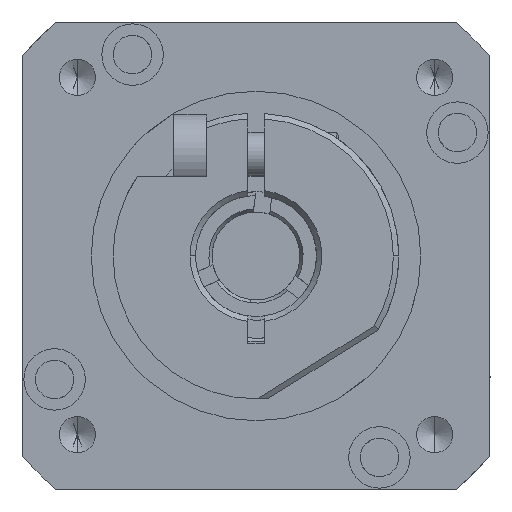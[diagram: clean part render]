
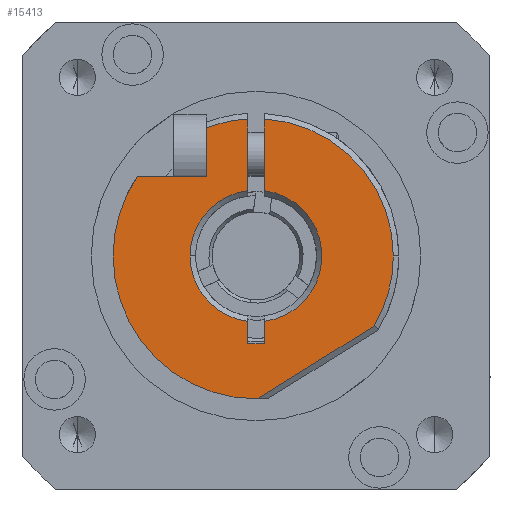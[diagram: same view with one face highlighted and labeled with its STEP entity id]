
A CAD part, left-side view. The second image highlights one B-rep face of the part: STEP entity #15413.
In plain terms, the highlighted planar face has unit normal (-1, 0, 0) as drawn and (0, -1, 0) by its records, which use the part's own axes.
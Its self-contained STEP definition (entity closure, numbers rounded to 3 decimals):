
#131 = AXIS2_PLACEMENT_3D ( 'NONE', #12934, #4484, #14357 ) ;
#149 = VERTEX_POINT ( 'NONE', #6681 ) ;
#198 = EDGE_CURVE ( 'NONE', #14274, #5869, #3789, .T. ) ;
#207 = CARTESIAN_POINT ( 'NONE',  ( 8., -4., -0.75 ) ) ;
#212 = CARTESIAN_POINT ( 'NONE',  ( -7.25, -4., -4.5 ) ) ;
#322 = VERTEX_POINT ( 'NONE', #12736 ) ;
#334 = DIRECTION ( 'NONE',  ( 0., 0., -1. ) ) ;
#407 = EDGE_CURVE ( 'NONE', #10996, #14274, #9093, .T. ) ;
#540 = DIRECTION ( 'NONE',  ( 1., 0., 0. ) ) ;
#568 = ORIENTED_EDGE ( 'NONE', *, *, #8639, .T. ) ;
#613 = CARTESIAN_POINT ( 'NONE',  ( 0., -4., -13. ) ) ;
#647 = CIRCLE ( 'NONE', #7833, 12.5 ) ;
#745 = CARTESIAN_POINT ( 'NONE',  ( 5.5, -4., 0.75 ) ) ;
#774 = CARTESIAN_POINT ( 'NONE',  ( 0., -4., -6. ) ) ;
#827 = VERTEX_POINT ( 'NONE', #212 ) ;
#1082 = EDGE_CURVE ( 'NONE', #17301, #149, #7925, .T. ) ;
#1087 = AXIS2_PLACEMENT_3D ( 'NONE', #3353, #13230, #4767 ) ;
#1234 = DIRECTION ( 'NONE',  ( 0., 1., 0. ) ) ;
#1344 = CARTESIAN_POINT ( 'NONE',  ( -12.477, -4., 0.75 ) ) ;
#1677 = CARTESIAN_POINT ( 'NONE',  ( 5.5, -4., -4.5 ) ) ;
#2115 = EDGE_CURVE ( 'NONE', #14062, #7401, #4371, .T. ) ;
#2396 = CARTESIAN_POINT ( 'NONE',  ( -5.953, -4., -0.75 ) ) ;
#2472 = EDGE_CURVE ( 'NONE', #16975, #7401, #18305, .T. ) ;
#2529 = DIRECTION ( 'NONE',  ( 0., -1., 0. ) ) ;
#2782 = DIRECTION ( 'NONE',  ( 0., -1., 0. ) ) ;
#3353 = CARTESIAN_POINT ( 'NONE',  ( 0., -4., 0. ) ) ;
#3704 = EDGE_CURVE ( 'NONE', #7699, #17301, #13033, .T. ) ;
#3717 = CARTESIAN_POINT ( 'NONE',  ( 6.303, -4., 10.859 ) ) ;
#3752 = AXIS2_PLACEMENT_3D ( 'NONE', #13911, #5458, #15342 ) ;
#3789 = CIRCLE ( 'NONE', #12319, 12.5 ) ;
#3888 = EDGE_CURVE ( 'NONE', #5869, #17381, #16584, .T. ) ;
#3986 = CARTESIAN_POINT ( 'NONE',  ( -7.25, -4., -10.791 ) ) ;
#4121 = VECTOR ( 'NONE', #5406, 1000. ) ;
#4371 = CIRCLE ( 'NONE', #1087, 6. ) ;
#4484 = DIRECTION ( 'NONE',  ( 0., 1., 0. ) ) ;
#4767 = DIRECTION ( 'NONE',  ( 0., 0., -1. ) ) ;
#5001 = LINE ( 'NONE', #18100, #4121 ) ;
#5179 = EDGE_CURVE ( 'NONE', #322, #14062, #7036, .T. ) ;
#5406 = DIRECTION ( 'NONE',  ( 0., 0., 1. ) ) ;
#5458 = DIRECTION ( 'NONE',  ( 0., -1., 0. ) ) ;
#5869 = VERTEX_POINT ( 'NONE', #6838 ) ;
#6157 = VECTOR ( 'NONE', #14875, 1000. ) ;
#6194 = CARTESIAN_POINT ( 'NONE',  ( 5.5, -4., -0.75 ) ) ;
#6265 = ORIENTED_EDGE ( 'NONE', *, *, #16728, .T. ) ;
#6268 = CARTESIAN_POINT ( 'NONE',  ( 12.999, -4., 0.144 ) ) ;
#6300 = VERTEX_POINT ( 'NONE', #3986 ) ;
#6456 = CARTESIAN_POINT ( 'NONE',  ( -11.662, -4., -4.5 ) ) ;
#6681 = CARTESIAN_POINT ( 'NONE',  ( 5.953, -4., 0.75 ) ) ;
#6799 = DIRECTION ( 'NONE',  ( -0.53, 0., 0.848 ) ) ;
#6838 = CARTESIAN_POINT ( 'NONE',  ( 0., -4., 12.5 ) ) ;
#7036 = CIRCLE ( 'NONE', #16575, 6. ) ;
#7317 = DIRECTION ( 'NONE',  ( 0., -1., 0. ) ) ;
#7331 = DIRECTION ( 'NONE',  ( -1., 0., 0. ) ) ;
#7401 = VERTEX_POINT ( 'NONE', #2396 ) ;
#7429 = LINE ( 'NONE', #9832, #14481 ) ;
#7642 = CARTESIAN_POINT ( 'NONE',  ( 8., -4., 0. ) ) ;
#7699 = VERTEX_POINT ( 'NONE', #207 ) ;
#7833 = AXIS2_PLACEMENT_3D ( 'NONE', #15776, #7317, #17226 ) ;
#7925 = LINE ( 'NONE', #745, #6157 ) ;
#8122 = CARTESIAN_POINT ( 'NONE',  ( 8., -4., 0.75 ) ) ;
#8232 = DIRECTION ( 'NONE',  ( 0., -1., 0. ) ) ;
#8388 = VERTEX_POINT ( 'NONE', #613 ) ;
#8435 = AXIS2_PLACEMENT_3D ( 'NONE', #17326, #8831, #334 ) ;
#8639 = EDGE_CURVE ( 'NONE', #16975, #11200, #647, .T. ) ;
#8831 = DIRECTION ( 'NONE',  ( 0., -1., 0. ) ) ;
#8984 = EDGE_CURVE ( 'NONE', #8388, #10996, #15480, .T. ) ;
#9093 = LINE ( 'NONE', #3717, #12392 ) ;
#9281 = ORIENTED_EDGE ( 'NONE', *, *, #1082, .F. ) ;
#9310 = EDGE_CURVE ( 'NONE', #16141, #149, #11469, .T. ) ;
#9451 = ORIENTED_EDGE ( 'NONE', *, *, #16432, .F. ) ;
#9452 = CARTESIAN_POINT ( 'NONE',  ( 5.5, -4., -0.75 ) ) ;
#9712 = CARTESIAN_POINT ( 'NONE',  ( 0., -4., 0. ) ) ;
#9832 = CARTESIAN_POINT ( 'NONE',  ( 5.5, -4., 0.75 ) ) ;
#9923 = ORIENTED_EDGE ( 'NONE', *, *, #2115, .T. ) ;
#10184 = ORIENTED_EDGE ( 'NONE', *, *, #5179, .T. ) ;
#10595 = CARTESIAN_POINT ( 'NONE',  ( -5.953, -4., 0.75 ) ) ;
#10859 = DIRECTION ( 'NONE',  ( 1., 0., 0. ) ) ;
#10990 = PLANE ( 'NONE',  #12977 ) ;
#10996 = VERTEX_POINT ( 'NONE', #6268 ) ;
#11117 = DIRECTION ( 'NONE',  ( 0., 0., -1. ) ) ;
#11200 = VERTEX_POINT ( 'NONE', #6456 ) ;
#11242 = CARTESIAN_POINT ( 'NONE',  ( 0., -4., 0. ) ) ;
#11406 = ORIENTED_EDGE ( 'NONE', *, *, #198, .T. ) ;
#11469 = CIRCLE ( 'NONE', #131, 6. ) ;
#11621 = ORIENTED_EDGE ( 'NONE', *, *, #3704, .F. ) ;
#11625 = LINE ( 'NONE', #9452, #14961 ) ;
#11885 = DIRECTION ( 'NONE',  ( 0., 0., 1. ) ) ;
#12319 = AXIS2_PLACEMENT_3D ( 'NONE', #16715, #8232, #18138 ) ;
#12371 = EDGE_CURVE ( 'NONE', #6300, #827, #5001, .T. ) ;
#12392 = VECTOR ( 'NONE', #6799, 1000. ) ;
#12411 = DIRECTION ( 'NONE',  ( 0., 0., -1. ) ) ;
#12660 = DIRECTION ( 'NONE',  ( 0., 0., -1. ) ) ;
#12663 = LINE ( 'NONE', #1677, #16456 ) ;
#12736 = CARTESIAN_POINT ( 'NONE',  ( 5.953, -4., -0.75 ) ) ;
#12934 = CARTESIAN_POINT ( 'NONE',  ( 0., -4., 0. ) ) ;
#12977 = AXIS2_PLACEMENT_3D ( 'NONE', #15220, #2529, #12411 ) ;
#13033 = LINE ( 'NONE', #7642, #15467 ) ;
#13230 = DIRECTION ( 'NONE',  ( 0., 1., 0. ) ) ;
#13331 = CIRCLE ( 'NONE', #17294, 13. ) ;
#13911 = CARTESIAN_POINT ( 'NONE',  ( 0., -4., 0. ) ) ;
#13923 = ORIENTED_EDGE ( 'NONE', *, *, #8984, .T. ) ;
#14062 = VERTEX_POINT ( 'NONE', #774 ) ;
#14144 = EDGE_CURVE ( 'NONE', #322, #7699, #11625, .T. ) ;
#14274 = VERTEX_POINT ( 'NONE', #15320 ) ;
#14357 = DIRECTION ( 'NONE',  ( 0., 0., -1. ) ) ;
#14481 = VECTOR ( 'NONE', #16926, 1000. ) ;
#14518 = VECTOR ( 'NONE', #540, 1000. ) ;
#14599 = ORIENTED_EDGE ( 'NONE', *, *, #3888, .T. ) ;
#14615 = ORIENTED_EDGE ( 'NONE', *, *, #12371, .F. ) ;
#14649 = CARTESIAN_POINT ( 'NONE',  ( -12.477, -4., -0.75 ) ) ;
#14875 = DIRECTION ( 'NONE',  ( -1., 0., 0. ) ) ;
#14895 = EDGE_CURVE ( 'NONE', #16141, #17381, #7429, .T. ) ;
#14961 = VECTOR ( 'NONE', #10859, 1000. ) ;
#15220 = CARTESIAN_POINT ( 'NONE',  ( 5.5, -4., 0. ) ) ;
#15231 = EDGE_LOOP ( 'NONE', ( #17987, #10184, #9923, #16945, #568, #9451, #14615, #6265, #13923, #16776, #11406, #14599, #16910, #15853, #9281, #11621 ) ) ;
#15320 = CARTESIAN_POINT ( 'NONE',  ( 6.367, -4., 10.757 ) ) ;
#15342 = DIRECTION ( 'NONE',  ( 0., 0., -1. ) ) ;
#15413 = ADVANCED_FACE ( 'NONE', ( #15807 ), #10990, .T. ) ;
#15467 = VECTOR ( 'NONE', #11885, 1000. ) ;
#15480 = CIRCLE ( 'NONE', #8435, 13. ) ;
#15776 = CARTESIAN_POINT ( 'NONE',  ( 0., -4., 0. ) ) ;
#15807 = FACE_OUTER_BOUND ( 'NONE', #15231, .T. ) ;
#15853 = ORIENTED_EDGE ( 'NONE', *, *, #9310, .T. ) ;
#16141 = VERTEX_POINT ( 'NONE', #10595 ) ;
#16432 = EDGE_CURVE ( 'NONE', #827, #11200, #12663, .T. ) ;
#16456 = VECTOR ( 'NONE', #7331, 1000. ) ;
#16575 = AXIS2_PLACEMENT_3D ( 'NONE', #9712, #1234, #11117 ) ;
#16584 = CIRCLE ( 'NONE', #3752, 12.5 ) ;
#16715 = CARTESIAN_POINT ( 'NONE',  ( 0., -4., 0. ) ) ;
#16728 = EDGE_CURVE ( 'NONE', #6300, #8388, #13331, .T. ) ;
#16776 = ORIENTED_EDGE ( 'NONE', *, *, #407, .T. ) ;
#16910 = ORIENTED_EDGE ( 'NONE', *, *, #14895, .F. ) ;
#16926 = DIRECTION ( 'NONE',  ( -1., 0., 0. ) ) ;
#16945 = ORIENTED_EDGE ( 'NONE', *, *, #2472, .F. ) ;
#16975 = VERTEX_POINT ( 'NONE', #14649 ) ;
#17226 = DIRECTION ( 'NONE',  ( 0., 0., -1. ) ) ;
#17294 = AXIS2_PLACEMENT_3D ( 'NONE', #11242, #2782, #12660 ) ;
#17301 = VERTEX_POINT ( 'NONE', #8122 ) ;
#17326 = CARTESIAN_POINT ( 'NONE',  ( 0., -4., 0. ) ) ;
#17381 = VERTEX_POINT ( 'NONE', #1344 ) ;
#17987 = ORIENTED_EDGE ( 'NONE', *, *, #14144, .F. ) ;
#18100 = CARTESIAN_POINT ( 'NONE',  ( -7.25, -4., 0. ) ) ;
#18138 = DIRECTION ( 'NONE',  ( 0., 0., -1. ) ) ;
#18305 = LINE ( 'NONE', #6194, #14518 ) ;
